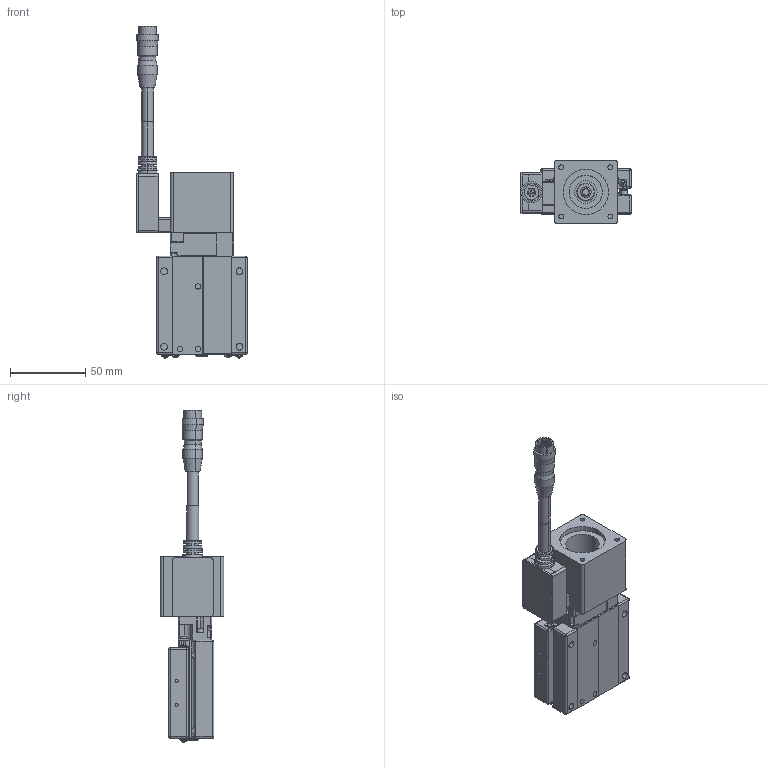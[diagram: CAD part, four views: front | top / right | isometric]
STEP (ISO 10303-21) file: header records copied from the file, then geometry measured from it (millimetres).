
FILE_DESCRIPTION (( 'STEP AP203' ), '1' );
FILE_NAME ('CXS6020(伺服M無馬達).STEP', '2023-12-12T00:15:33', ( '' ), ( '' ), 'SwSTEP 2.0', 'SolidWorks 2019', '' );
FILE_SCHEMA (( 'CONFIG_CONTROL_DESIGN' ));
Length unit declared in the file: millimetre
Products named in the file (4): HR10A-10J-12P; Group2^CXS6020(伺服M無馬達)_defeature_GMT; Group3^CXS6020(伺服M無馬達)_defeature_GMT; CXS6020(伺服M無馬達)
Assembly tree (3 placements, depth 2):
  CXS6020(伺服M無馬達)
    Group2^CXS6020(伺服M無馬達)_defeature_GMT
    Group3^CXS6020(伺服M無馬達)_defeature_GMT
    HR10A-10J-12P
Bounding box: 73 x 42 x 219.93 mm (x, y, z)
Volume: 166979.2 mm3; surface area: 63249.4 mm2
Topology: 7 solids, 8 shells, 4446 faces, 11378 edges, 7158 vertices
Faces by surface type: plane 2381, bspline 1066, cylinder 699, cone 139, sphere 118, torus 43
Entity records: 146738 total; most frequent: CARTESIAN_POINT 47668, ORIENTED_EDGE 22564, DIRECTION 16532, EDGE_CURVE 11282, VERTEX_POINT 7158, VECTOR 6350, LINE 6350, AXIS2_PLACEMENT_3D 5091
